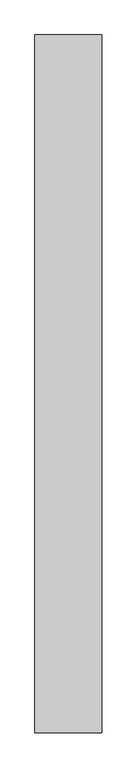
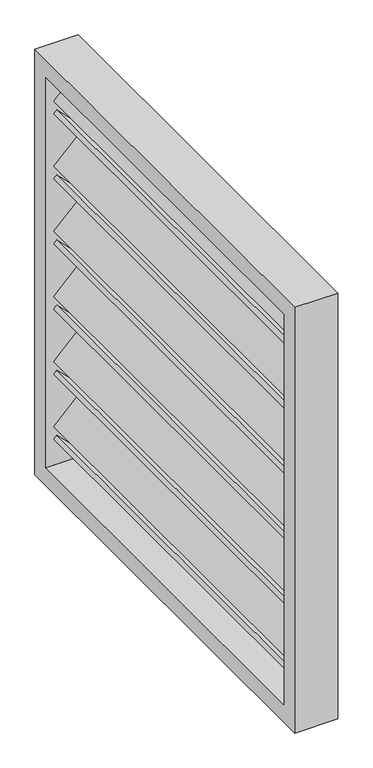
"""IFC4 building model written with IfcOpenShell, lengths in millimetres: damper geometry, MERCOR - Przepustnica : Przepustnica do układu mcr EXi-F 100-1S - obudowa skrzynkowa."""

import ifcopenshell
import ifcopenshell.guid

model = None  # the IFC model being written
_history = None  # IfcOwnerHistory: only IFC2X3 demands one
_inside = {}  # id of a spatial element -> (the spatial element, [elements in it])
_under = {}  # id of a project, library or spatial element -> (it, [spatial elements below it])
_declared = {}  # id of a project -> (the project, [libraries it declares])
_typed = {}  # id of a type object -> (the type object, [elements of that type])
_made_of = {}  # id of a material, layer set ... -> (it, [elements and type objects made of it])


def new_model(schema):
    """Start an empty IFC model of exactly this schema.

    Asked for "IFC4X3", IfcOpenShell would pick the latest addendum, in which some entities
    have other attributes; the version numbers below select the first issue.
    IFC2X3 requires an IfcOwnerHistory on every rooted entity: one is made here for all.
    """
    global model, _history
    if schema == "IFC4X3":
        model = ifcopenshell.file(schema_version=(4, 3, 0, 0))
    else:
        model = ifcopenshell.file(schema=schema)
    _inside.clear()
    _under.clear()
    _declared.clear()
    _typed.clear()
    _made_of.clear()
    _history = None
    if model.schema == "IFC2X3":
        org = make("IfcOrganization", Name="unknown")
        user = make(
            "IfcPersonAndOrganization",
            ThePerson=make("IfcPerson", FamilyName="unknown"),
            TheOrganization=org,
        )
        app = make(
            "IfcApplication",
            ApplicationDeveloper=org,
            Version="unknown",
            ApplicationFullName="unknown",
            ApplicationIdentifier="unknown",
        )
        _history = make(
            "IfcOwnerHistory",
            OwningUser=user,
            OwningApplication=app,
            ChangeAction="ADDED",
            CreationDate=0,
        )
    return model


def make(cls, **values):
    """One entity of the class cls with the attributes given. An attribute that is None is left unset."""
    return model.create_entity(
        cls, **{name: value for name, value in values.items() if value is not None}
    )


def rooted(cls, **values):
    """An entity with a GlobalId (a new one), such as an element, a storey or a relation."""
    return make(cls, GlobalId=ifcopenshell.guid.new(), OwnerHistory=_history, **values)


def si_unit(unit_type, name, prefix=None):
    """IfcSIUnit, for example si_unit("LENGTHUNIT", "METRE", prefix="MILLI")."""
    return make("IfcSIUnit", UnitType=unit_type, Prefix=prefix, Name=name)


def assignment(units):
    """IfcUnitAssignment: the units of a project."""
    return None if units is None else make("IfcUnitAssignment", Units=units)


def point(xyz):
    """IfcCartesianPoint."""
    return None if xyz is None else make("IfcCartesianPoint", Coordinates=xyz)


def direction(xyz):
    """IfcDirection."""
    return None if xyz is None else make("IfcDirection", DirectionRatios=xyz)


def frame(location, z_axis=None, x_axis=None):
    """IfcAxis2Placement3D, a coordinate frame: its origin and axes. An axis left out is left unset."""
    return make(
        "IfcAxis2Placement3D",
        Location=point(location),
        Axis=direction(z_axis),
        RefDirection=direction(x_axis),
    )


def origin():
    """The frame at (0, 0, 0) with its axes left unset."""
    return frame((0.0, 0.0, 0.0))


def place(relative_to, where):
    """IfcLocalPlacement: puts the frame where relative to a parent placement (None: the world)."""
    return make(
        "IfcLocalPlacement", PlacementRelTo=relative_to, RelativePlacement=where
    )


def context(
    kind, dimensions, precision=None, world=None, true_north=None, identifier=None
):
    """IfcGeometricRepresentationContext, for example the 3D "Model" context."""
    return make(
        "IfcGeometricRepresentationContext",
        ContextIdentifier=identifier,
        ContextType=kind,
        CoordinateSpaceDimension=dimensions,
        Precision=precision,
        WorldCoordinateSystem=world,
        TrueNorth=true_north,
    )


def project(units=None, contexts=None):
    """IfcProject with its units and contexts."""
    return rooted(
        "IfcProject",
        Name="project",
        RepresentationContexts=contexts,
        UnitsInContext=assignment(units),
    )


def spatial(cls, under=None, at=None, **own):
    """A site, building, storey or space (cls), placed at a placement, below another one or the project."""
    s = rooted(cls, ObjectPlacement=at, **own)
    if under is not None:
        _under.setdefault(under.id(), (under, []))[1].append(s)
    return s


def polyline(points):
    """IfcPolyline through the points."""
    return make("IfcPolyline", Points=[point(p) for p in points])


def outline(outer, holes=None, kind="AREA"):
    """IfcArbitraryClosedProfileDef: a profile drawn as a closed curve; with holes, ...WithVoids."""
    if holes is None:
        return make("IfcArbitraryClosedProfileDef", ProfileType=kind, OuterCurve=outer)
    return make(
        "IfcArbitraryProfileDefWithVoids",
        ProfileType=kind,
        OuterCurve=outer,
        InnerCurves=holes,
    )


def extrude(swept, where, along, depth):
    """IfcExtrudedAreaSolid: the profile swept, set in the frame where, extruded along a direction by depth."""
    return make(
        "IfcExtrudedAreaSolid",
        SweptArea=swept,
        Position=where,
        ExtrudedDirection=direction(along),
        Depth=depth,
    )


def shape(context_of_items, identifier, shape_type, items):
    """IfcShapeRepresentation: the items that make up one representation, for example the "Body"."""
    return make(
        "IfcShapeRepresentation",
        ContextOfItems=context_of_items,
        RepresentationIdentifier=identifier,
        RepresentationType=shape_type,
        Items=items,
    )


def source(mapping_origin, context_of_items, identifier, shape_type, items):
    """IfcRepresentationMap: a shape defined once, which mapped items show again and again."""
    return make(
        "IfcRepresentationMap",
        MappingOrigin=mapping_origin,
        MappedRepresentation=shape(context_of_items, identifier, shape_type, items),
    )


def transform(
    local_origin,
    x_axis=None,
    y_axis=None,
    z_axis=None,
    scale=None,
    scale2=None,
    scale3=None,
    uniform=True,
):
    """IfcCartesianTransformationOperator3D, or its non-uniform kind. x_axis, y_axis, z_axis: its Axis1, 2, 3."""
    if uniform:
        return make(
            "IfcCartesianTransformationOperator3D",
            Axis1=direction(x_axis),
            Axis2=direction(y_axis),
            LocalOrigin=point(local_origin),
            Scale=scale,
            Axis3=direction(z_axis),
        )
    return make(
        "IfcCartesianTransformationOperator3DnonUniform",
        Axis1=direction(x_axis),
        Axis2=direction(y_axis),
        LocalOrigin=point(local_origin),
        Scale=scale,
        Axis3=direction(z_axis),
        Scale2=scale2,
        Scale3=scale3,
    )


def mapped(mapping_source, mapping_target):
    """IfcMappedItem: shows the shape of a source again, moved by a transform."""
    return make(
        "IfcMappedItem", MappingSource=mapping_source, MappingTarget=mapping_target
    )


def made_of(thing, what):
    """Note that an element or type object is made of a material, layer set ...; save() writes the relation."""
    if what is not None:
        _made_of.setdefault(what.id(), (what, []))[1].append(thing)
    return thing


def element(
    cls,
    number,
    at=None,
    inside=None,
    cuts=None,
    type_object=None,
    material=None,
    context=None,
    identifier="Body",
    shape_type=None,
    held_by="IfcProductDefinitionShape",
    body=None,
    shapes=None,
    **own,
):
    """One element of the class cls, such as IfcWall. Its Tag is "e" and its number.

    at: its placement. inside: the storey or other place that contains it. cuts: it is an
    opening in that element (IfcRelVoidsElement). A single representation is given by context,
    identifier, shape_type and body (its items); several are given by shapes. held_by: the class
    of the entity that holds the representations. save() writes the other relations.
    """
    e = rooted(cls, Tag="e%d" % number, ObjectPlacement=at, **own)
    if body is not None:
        shapes = [shape(context, identifier, shape_type, body)]
    if shapes is not None:
        e.Representation = make(held_by, Representations=shapes)
    if inside is not None:
        _inside.setdefault(inside.id(), (inside, []))[1].append(e)
    if cuts is not None:
        rooted(
            "IfcRelVoidsElement", RelatingBuildingElement=cuts, RelatedOpeningElement=e
        )
    if type_object is not None:
        _typed.setdefault(type_object.id(), (type_object, []))[1].append(e)
    return made_of(e, material)


def aggregate(whole, parts):
    """IfcRelAggregates: a whole, such as a stair, and the parts it consists of."""
    return rooted("IfcRelAggregates", RelatingObject=whole, RelatedObjects=parts)


def save(model, path):
    """Write the relations noted so far, then the file.

    IfcRelAggregates (storeys below a building ...), IfcRelContainedInSpatialStructure (elements
    in a storey), IfcRelDefinesByType, IfcRelAssociatesMaterial and IfcRelDeclares: one each for
    every whole, place, type object, material and project.
    """
    for whole, parts in _under.values():
        aggregate(whole, parts)
    for where, things in _inside.values():
        rooted(
            "IfcRelContainedInSpatialStructure",
            RelatedElements=things,
            RelatingStructure=where,
        )
    for kind, things in _typed.values():
        rooted("IfcRelDefinesByType", RelatedObjects=things, RelatingType=kind)
    for what, things in _made_of.values():
        rooted("IfcRelAssociatesMaterial", RelatedObjects=things, RelatingMaterial=what)
    for by, libraries in _declared.values():
        rooted("IfcRelDeclares", RelatingContext=by, RelatedDefinitions=libraries)
    model.write(path)


def damper_d5a67774(model_context):
    return source(origin(), model_context, "Body", "SweptSolid", [
        extrude(outline(polyline([(0.0, -91.6666667), (0.0, 0.0), (1099.8, 0.0), (1099.8, -91.6666667), (0.0, -91.6666667)])), frame((-36.6517015, -549.9, -476.0002465), z_axis=(0.7071067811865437, 0.0, 0.7071067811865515), x_axis=(0.0, 1.0, 0.0)), (0.0, 0.0, 1.0), 12.0),
        extrude(outline(polyline([(0.0, -91.6666667), (0.0, 0.0), (1099.8, 0.0), (1099.8, -91.6666667), (0.0, -91.6666667)])), frame((-36.6517015, -549.9, -292.6669132), z_axis=(0.7071067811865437, 0.0, 0.7071067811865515), x_axis=(0.0, 1.0, 0.0)), (0.0, 0.0, 1.0), 12.0),
        extrude(outline(polyline([(0.0, -12.0), (0.0, 0.0), (1099.8, 0.0), (1099.8, -12.0), (0.0, -12.0)])), frame((-36.6517015, -549.9, -257.3330868), z_axis=(0.707106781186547, 0.0, 0.7071067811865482), x_axis=(0.0, 1.0, 0.0)), (0.0, 0.0, 1.0), 91.6666667),
        extrude(outline(polyline([(0.0, -12.0), (0.0, 0.0), (1099.8, 0.0), (1099.8, -12.0), (0.0, -12.0)])), frame((-36.6517015, -549.9, -73.9997535), z_axis=(0.707106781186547, 0.0, 0.7071067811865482), x_axis=(0.0, 1.0, 0.0)), (0.0, 0.0, 1.0), 91.6666667),
        extrude(outline(polyline([(0.0, -91.6666667), (0.0, 0.0), (1099.8, 0.0), (1099.8, -91.6666667), (0.0, -91.6666667)])), frame((-36.6517015, -549.9, 73.9997535), z_axis=(0.7071067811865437, 0.0, 0.7071067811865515), x_axis=(0.0, 1.0, 0.0)), (0.0, 0.0, 1.0), 12.0),
        extrude(outline(polyline([(0.0, -91.6666667), (0.0, 0.0), (1099.8, 0.0), (1099.8, -91.6666667), (0.0, -91.6666667)])), frame((-36.6517015, -549.9, 257.3330868), z_axis=(0.7071067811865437, 0.0, 0.7071067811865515), x_axis=(0.0, 1.0, 0.0)), (0.0, 0.0, 1.0), 12.0),
        extrude(outline(polyline([(0.0, -12.0), (0.0, 0.0), (1099.8, 0.0), (1099.8, -12.0), (0.0, -12.0)])), frame((-36.6517015, -549.9, 292.6669132), z_axis=(0.707106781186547, 0.0, 0.7071067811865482), x_axis=(0.0, 1.0, 0.0)), (0.0, 0.0, 1.0), 91.6666667),
        extrude(outline(polyline([(0.0, -12.0), (0.0, 0.0), (1099.8, 0.0), (1099.8, -12.0), (0.0, -12.0)])), frame((-36.6517015, -549.9, 476.0002465), z_axis=(0.707106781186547, 0.0, 0.7071067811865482), x_axis=(0.0, 1.0, 0.0)), (0.0, 0.0, 1.0), 91.6666667),
        extrude(outline(polyline([(0.0, -91.6666667), (0.0, 0.0), (1099.8, 0.0), (1099.8, -91.6666667), (0.0, -91.6666667)])), frame((-36.6517015, -549.9, 440.6664201), z_axis=(0.7071067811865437, 0.0, 0.7071067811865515), x_axis=(0.0, 1.0, 0.0)), (0.0, 0.0, 1.0), 12.0),
        extrude(outline(polyline([(0.0, -12.0), (0.0, 0.0), (1099.8, 0.0), (1099.8, -12.0), (0.0, -12.0)])), frame((-36.6517015, -549.9, 109.3335799), z_axis=(0.707106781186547, 0.0, 0.7071067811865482), x_axis=(0.0, 1.0, 0.0)), (0.0, 0.0, 1.0), 91.6666667),
        extrude(outline(polyline([(0.0, -91.6666667), (0.0, 0.0), (1099.8, 0.0), (1099.8, -91.6666667), (0.0, -91.6666667)])), frame((-36.6517015, -549.9, -109.3335799), z_axis=(0.7071067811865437, 0.0, 0.7071067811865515), x_axis=(0.0, 1.0, 0.0)), (0.0, 0.0, 1.0), 12.0),
        extrude(outline(polyline([(0.0, -12.0), (0.0, 0.0), (1099.8, 0.0), (1099.8, -12.0), (0.0, -12.0)])), frame((-36.6517015, -549.9, -440.6664201), z_axis=(0.707106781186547, 0.0, 0.7071067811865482), x_axis=(0.0, 1.0, 0.0)), (0.0, 0.0, 1.0), 91.6666667),
        extrude(outline(polyline([(-600.0, -600.0), (-600.0, 600.0), (600.0, 600.0), (600.0, -600.0), (-600.0, -600.0)]), holes=[polyline([(-550.0, -550.0), (550.0, -550.0), (550.0, 550.0), (-550.0, 550.0), (-550.0, -550.0)])]), frame((-57.5, 0.0, 0.0), z_axis=(1.0, 0.0, 0.0), x_axis=(0.0, 1.0, 0.0)), (0.0, 0.0, 1.0), 115.0),
    ])


if __name__ == "__main__":
    model = new_model("IFC4")
    model_context = context("Model", 3, world=origin())
    ifc_project = project(units=[si_unit("LENGTHUNIT", "METRE", prefix="MILLI")], contexts=[model_context])
    site = spatial("IfcSite", under=ifc_project)
    building = spatial("IfcBuilding", under=site)
    placement = place(None, origin())
    damper_shape = damper_d5a67774(model_context)
    element("IfcDamper", 1, ObjectType="MERCOR - Przepustnica : Przepustnica do układu mcr EXi-F 100-1S - obudowa skrzynkowa", at=placement, inside=building, context=model_context, shape_type="MappedRepresentation", body=[
        mapped(damper_shape, transform((0.0, 0.0, 0.0), x_axis=(1.0, 0.0, 0.0), y_axis=(0.0, 1.0, 0.0), z_axis=(0.0, 0.0, 1.0))),
    ])
    save(model, "model.ifc")
